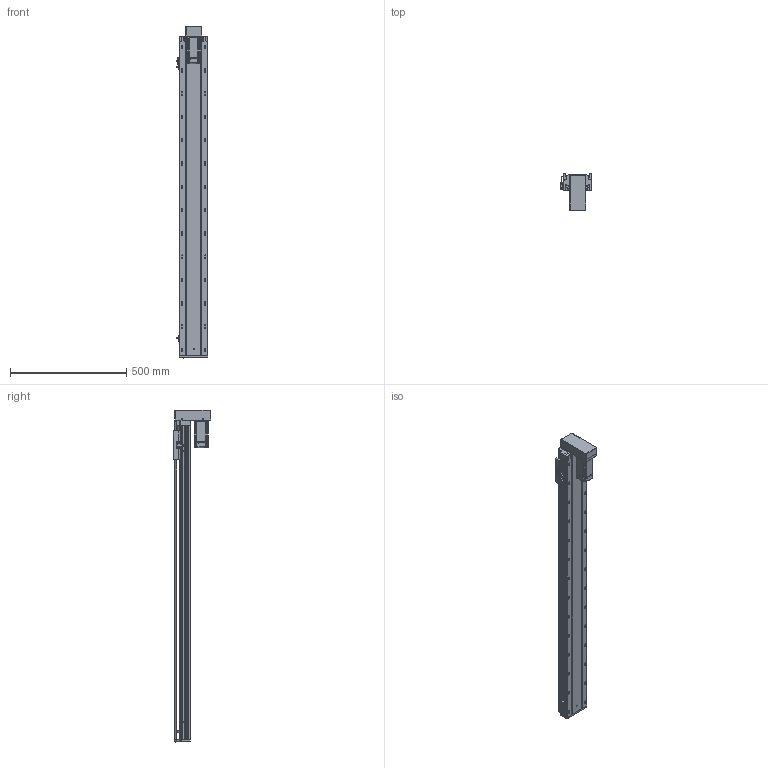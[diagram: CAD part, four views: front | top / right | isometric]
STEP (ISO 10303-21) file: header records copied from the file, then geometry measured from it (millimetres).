
FILE_DESCRIPTION (( 'STEP AP203' ), '1' );
FILE_NAME ('RY120-L2020-1000-BK.SLDASM_1150.step', '2021-03-12T07:20:20', ( '盈信电脑' ), ( '东莞市道滘镇水果街19号' ), 'SwSTEP 2.0', 'SolidWorks 2012', '' );
FILE_SCHEMA (( 'CONFIG_CONTROL_DESIGN' ));
Products named in the file (18): RY120-400W萇儂傷-BK; RY120-L2020-1000-BK.SLDASM_1150; RY120下折折电机安装板; 同步轮3M34齿宽15单边凸台; RY80肮祭湍覃踡啣; RY120狟殏萇儂欶; RY120转拆电端丝杆支撑座(20丝杆，7002轴承); 侂狟400W侜督萇儂; RY80肮祭湍芢雄輸; 15; 滅袉蝶18-10; 滅袉蝶18-24; 覜茼ん672; RY120外置感应片(140共用）; RY120-1000-BK蛌殏倰第菁釱_1150; RY120-1000-BK蛌殏倰第奻裔啣_1150; RY120綴裔啣; RY120臏賑輸(20蹟譫)
Assembly tree (21 placements, depth 4):
  RY120-L2020-1000-BK.SLDASM_1150
    RY120-1000-BK蛌殏倰第菁釱_1150
    RY120-1000-BK蛌殏倰第奻裔啣_1150
    RY120臏賑輸(20蹟譫)
    RY120綴裔啣
    覜茼ん672  x3
    滅袉蝶18-10
    滅袉蝶18-24  x2
    RY120外置感应片(140共用）
    RY120转拆电端丝杆支撑座(20丝杆，7002轴承)
    RY120-400W萇儂傷-BK
      侂狟400W侜督萇儂
        15
      RY80肮祭湍芢雄輸  x2
      同步轮3M34齿宽15单边凸台
      RY80肮祭湍覃踡啣
      RY120狟殏萇儂欶
      RY120下折折电机安装板
Bounding box: 135.7 x 159.5 x 1425 mm (x, y, z)
Volume: 3875156.3 mm3; surface area: 1453317 mm2
Topology: 20 solids, 20 shells, 3282 faces, 9027 edges, 5755 vertices
Faces by surface type: cylinder 1477, plane 1427, cone 273, bspline 105
Entity records: 109845 total; most frequent: CARTESIAN_POINT 30528, ORIENTED_EDGE 16554, DIRECTION 15696, EDGE_CURVE 8277, AXIS2_PLACEMENT_3D 5548, VERTEX_POINT 5379, VECTOR 4600, LINE 4600
